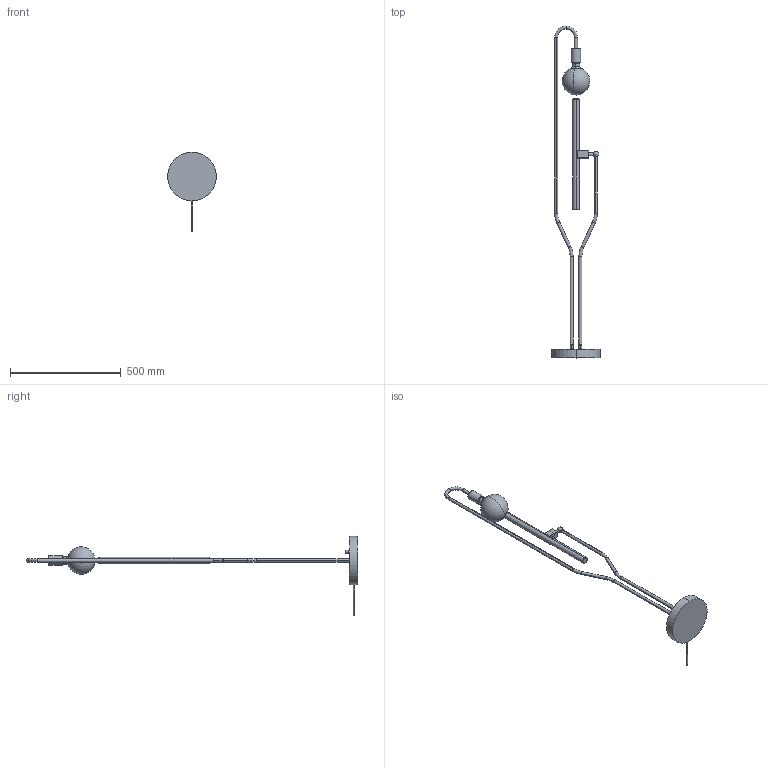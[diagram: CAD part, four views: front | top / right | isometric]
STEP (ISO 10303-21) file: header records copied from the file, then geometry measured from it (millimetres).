
FILE_DESCRIPTION (( 'STEP AP214' ), '1' );
FILE_NAME ('asm_SYNTAX_JCP_naginam_n.STEP', '2022-06-28T08:37:37', ( '' ), ( '' ), 'SwSTEP 2.0', 'SolidWorks 2021', '' );
FILE_SCHEMA (( 'AUTOMOTIVE_DESIGN' ));
Length unit declared in the file: millimetre
Products named in the file (10): JCP_scetch_3; Linestra_LED_S14D 50cm; asm_SYNTAX and illuminant_S14D_2020_50cm_reduziert; Syntax_Teil_A_reduziert; Baugruppe_Syntax_Fassung_S14D_2020; Ball_M10x1_25_mm_2_way_L; asm_SYNTAX_JCP_naginam_n; Nut_M10x1_SW17_ISO_493; E27 Fassung; Segula_Globe_E27 Globe 125
Assembly tree (9 placements, depth 4):
  asm_SYNTAX_JCP_naginam_n
    JCP_scetch_3
    E27 Fassung
    Segula_Globe_E27 Globe 125
    asm_SYNTAX and illuminant_S14D_2020_50cm_reduziert
      Linestra_LED_S14D 50cm
      Baugruppe_Syntax_Fassung_S14D_2020
        Nut_M10x1_SW17_ISO_493
      Syntax_Teil_A_reduziert
    Ball_M10x1_25_mm_2_way_L
Bounding box: 220 x 1500 x 360 mm (x, y, z)
Volume: 3061483.2 mm3; surface area: 407411.7 mm2
Topology: 11 solids, 12 shells, 340 faces, 776 edges, 463 vertices
Faces by surface type: cylinder 109, plane 86, torus 50, cone 42, bspline 35, sphere 18
Entity records: 11572 total; most frequent: CARTESIAN_POINT 3812, DIRECTION 1630, ORIENTED_EDGE 1508, EDGE_CURVE 754, AXIS2_PLACEMENT_3D 697, VERTEX_POINT 453, CIRCLE 378, EDGE_LOOP 361
